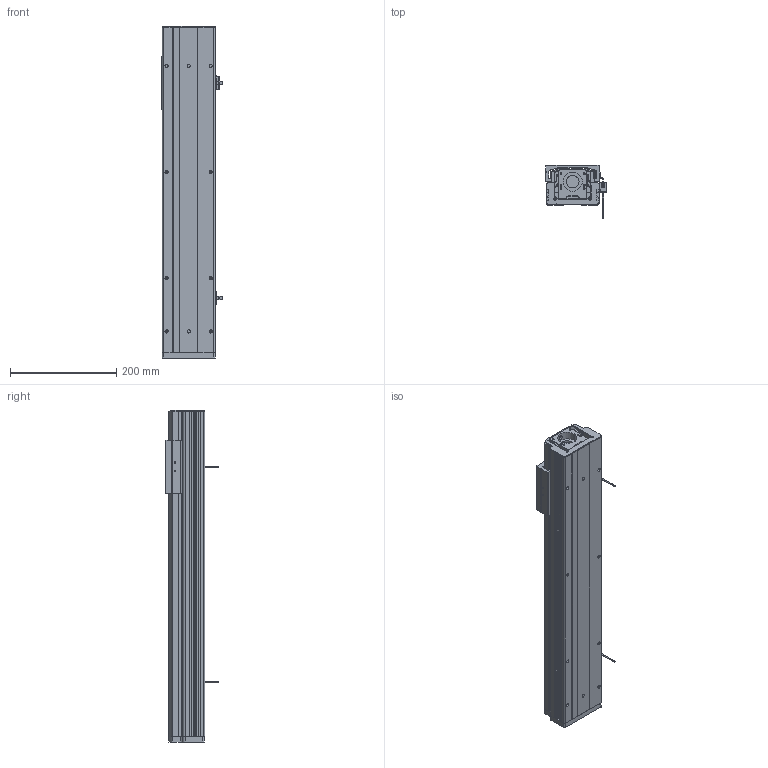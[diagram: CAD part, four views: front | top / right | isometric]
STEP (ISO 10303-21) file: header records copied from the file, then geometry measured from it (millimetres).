
FILE_DESCRIPTION (( 'STEP AP203' ), '1' );
FILE_NAME ('CTHM10-S400-O-BC.STEP', '2019-12-18T01:16:29', ( '微软用户' ), ( '微软中国' ), 'SwSTEP 2.0', 'SolidWorks 2017', '' );
FILE_SCHEMA (( 'CONFIG_CONTROL_DESIGN' ));
Length unit declared in the file: millimetre
Products named in the file (11): CTHM10固定侧自制轴承座; CTHM10裔啣(100); CTHM10傷裔(祥結裔啣); CTHM10綴傷裔; 覜茼え; 遣喳蝶15x12x8; EE-SX672-BR; CTHM10菁釱(200); CTHM10-S400-O-BC; CTHM10痄雄釱(党蜊); CTHM10盓傅耜
Assembly tree (14 placements, depth 2):
  CTHM10-S400-O-BC
    CTHM10菁釱(200)
    CTHM10痄雄釱(党蜊)
    CTHM10盓傅耜
    CTHM10固定侧自制轴承座
    CTHM10裔啣(100)
    CTHM10傷裔(祥結裔啣)
    CTHM10綴傷裔
    覜茼え
    遣喳蝶15x12x8  x4
    EE-SX672-BR  x2
Bounding box: 114.7 x 100.2 x 625 mm (x, y, z)
Volume: 1753014.1 mm3; surface area: 592742 mm2
Topology: 14 solids, 14 shells, 940 faces, 2662 edges, 1736 vertices
Faces by surface type: cylinder 501, plane 395, cone 44
Entity records: 31793 total; most frequent: CARTESIAN_POINT 7669, DIRECTION 4832, ORIENTED_EDGE 4796, EDGE_CURVE 2398, AXIS2_PLACEMENT_3D 1765, VERTEX_POINT 1584, LINE 1302, VECTOR 1302
